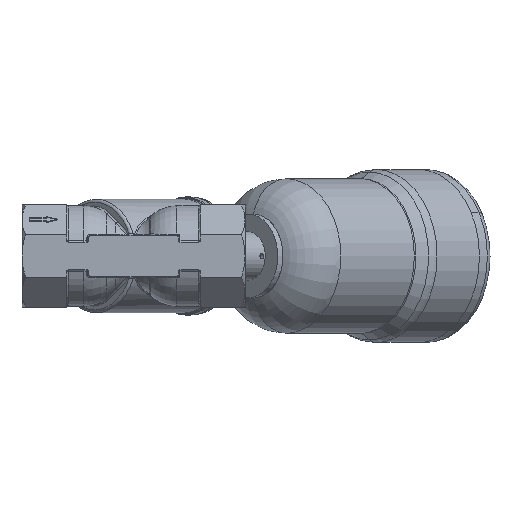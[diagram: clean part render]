
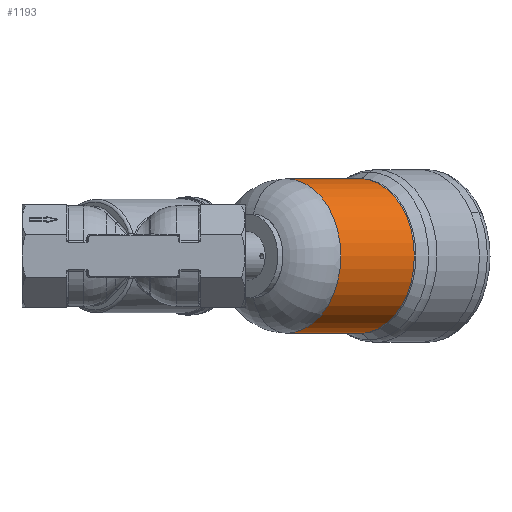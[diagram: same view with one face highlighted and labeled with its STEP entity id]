
A CAD part, front view. The second image highlights one B-rep face of the part: STEP entity #1193.
In plain terms, the highlighted cylindrical face has radius 41.5 mm (diameter 83 mm), a partial arc.
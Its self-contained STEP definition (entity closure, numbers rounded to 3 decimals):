
#286 = CARTESIAN_POINT ( 'NONE',  ( 122.476, 149.476, -41.5 ) ) ;
#1193 = ADVANCED_FACE ( 'NONE', ( #8747 ), #10694, .T. ) ;
#1319 = LINE ( 'NONE', #11556, #7721 ) ;
#1775 = VERTEX_POINT ( 'NONE', #13603 ) ;
#2627 = EDGE_LOOP ( 'NONE', ( #3162, #11076, #7772, #4656 ) ) ;
#3162 = ORIENTED_EDGE ( 'NONE', *, *, #4356, .T. ) ;
#3249 = CARTESIAN_POINT ( 'NONE',  ( 121.734, 148.734, 0. ) ) ;
#3433 = CIRCLE ( 'NONE', #9254, 41.5 ) ;
#3477 = VECTOR ( 'NONE', #7108, 1000. ) ;
#4356 = EDGE_CURVE ( 'NONE', #7964, #4418, #5639, .T. ) ;
#4405 = DIRECTION ( 'NONE',  ( 0., 0., 1. ) ) ;
#4409 = DIRECTION ( 'NONE',  ( -0.707, -0.707, 0. ) ) ;
#4418 = VERTEX_POINT ( 'NONE', #13527 ) ;
#4656 = ORIENTED_EDGE ( 'NONE', *, *, #14013, .F. ) ;
#5430 = CARTESIAN_POINT ( 'NONE',  ( 122.476, 149.476, 0. ) ) ;
#5639 = CIRCLE ( 'NONE', #14037, 41.5 ) ;
#6511 = LINE ( 'NONE', #286, #3477 ) ;
#6534 = DIRECTION ( 'NONE',  ( -0.707, -0.707, 0. ) ) ;
#6950 = AXIS2_PLACEMENT_3D ( 'NONE', #5430, #6534, #13424 ) ;
#7108 = DIRECTION ( 'NONE',  ( -0.707, -0.707, 0. ) ) ;
#7116 = VERTEX_POINT ( 'NONE', #11579 ) ;
#7721 = VECTOR ( 'NONE', #9297, 1000. ) ;
#7772 = ORIENTED_EDGE ( 'NONE', *, *, #9322, .F. ) ;
#7964 = VERTEX_POINT ( 'NONE', #13656 ) ;
#8747 = FACE_OUTER_BOUND ( 'NONE', #2627, .T. ) ;
#9254 = AXIS2_PLACEMENT_3D ( 'NONE', #11234, #4409, #12379 ) ;
#9297 = DIRECTION ( 'NONE',  ( -0.707, -0.707, 0. ) ) ;
#9322 = EDGE_CURVE ( 'NONE', #1775, #7116, #3433, .T. ) ;
#9547 = EDGE_CURVE ( 'NONE', #4418, #7116, #1319, .T. ) ;
#10694 = CYLINDRICAL_SURFACE ( 'NONE', #6950, 41.5 ) ;
#11076 = ORIENTED_EDGE ( 'NONE', *, *, #9547, .T. ) ;
#11228 = DIRECTION ( 'NONE',  ( -0.707, -0.707, 0. ) ) ;
#11234 = CARTESIAN_POINT ( 'NONE',  ( 82.171, 109.171, 0. ) ) ;
#11556 = CARTESIAN_POINT ( 'NONE',  ( 122.476, 149.476, 41.5 ) ) ;
#11579 = CARTESIAN_POINT ( 'NONE',  ( 82.171, 109.171, 41.5 ) ) ;
#12379 = DIRECTION ( 'NONE',  ( 0., 0., -1. ) ) ;
#13424 = DIRECTION ( 'NONE',  ( 0., 0., -1. ) ) ;
#13527 = CARTESIAN_POINT ( 'NONE',  ( 121.734, 148.734, 41.5 ) ) ;
#13603 = CARTESIAN_POINT ( 'NONE',  ( 82.171, 109.171, -41.5 ) ) ;
#13656 = CARTESIAN_POINT ( 'NONE',  ( 121.734, 148.734, -41.5 ) ) ;
#14013 = EDGE_CURVE ( 'NONE', #7964, #1775, #6511, .T. ) ;
#14037 = AXIS2_PLACEMENT_3D ( 'NONE', #3249, #11228, #4405 ) ;
